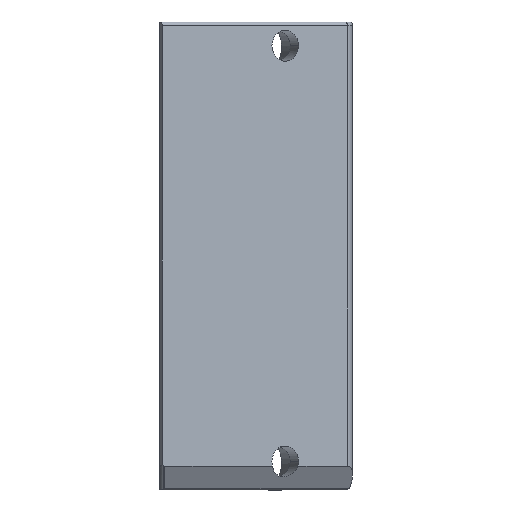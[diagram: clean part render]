
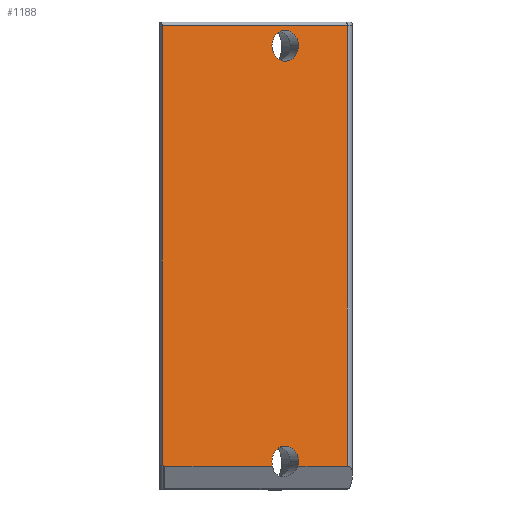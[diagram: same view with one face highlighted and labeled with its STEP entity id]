
A CAD part, front view. The second image highlights one B-rep face of the part: STEP entity #1188.
In plain terms, the highlighted planar face has unit normal (0.574, -0.819, 0).
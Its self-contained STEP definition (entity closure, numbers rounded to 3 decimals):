
#11 = CARTESIAN_POINT ( 'NONE',  ( -7.593, -6.737, 2.457 ) ) ;
#12 = VERTEX_POINT ( 'NONE', #1206 ) ;
#13 = EDGE_CURVE ( 'NONE', #473, #12, #1198, .T. ) ;
#24 = ORIENTED_EDGE ( 'NONE', *, *, #967, .T. ) ;
#43 = EDGE_CURVE ( 'NONE', #365, #227, #1193, .T. ) ;
#95 = ORIENTED_EDGE ( 'NONE', *, *, #1514, .F. ) ;
#107 = ORIENTED_EDGE ( 'NONE', *, *, #1499, .T. ) ;
#114 = CARTESIAN_POINT ( 'NONE',  ( -7.593, -6.737, 39.4 ) ) ;
#126 = AXIS2_PLACEMENT_3D ( 'NONE', #1149, #879, #197 ) ;
#130 = LINE ( 'NONE', #1041, #307 ) ;
#177 = VERTEX_POINT ( 'NONE', #700 ) ;
#185 = EDGE_LOOP ( 'NONE', ( #1756, #955, #706, #107, #920, #1085, #210, #24, #1487, #1220 ) ) ;
#197 = DIRECTION ( 'NONE',  ( 0.819, 0.574, 0. ) ) ;
#210 = ORIENTED_EDGE ( 'NONE', *, *, #1603, .F. ) ;
#212 = CARTESIAN_POINT ( 'NONE',  ( -7.57, -6.721, 2.426 ) ) ;
#227 = VERTEX_POINT ( 'NONE', #1520 ) ;
#250 = VECTOR ( 'NONE', #1608, 1000. ) ;
#252 = VECTOR ( 'NONE', #1019, 1000. ) ;
#260 = CARTESIAN_POINT ( 'NONE',  ( 3.886, 1.301, 37.7 ) ) ;
#307 = VECTOR ( 'NONE', #538, 1000. ) ;
#324 = CARTESIAN_POINT ( 'NONE',  ( 0.667, -0.953, 2.3 ) ) ;
#335 = VERTEX_POINT ( 'NONE', #593 ) ;
#365 = VERTEX_POINT ( 'NONE', #114 ) ;
#375 = DIRECTION ( 'NONE',  ( 0., 0., -1. ) ) ;
#395 = CARTESIAN_POINT ( 'NONE',  ( -7.523, -6.687, 2.375 ) ) ;
#397 = DIRECTION ( 'NONE',  ( 0., 0., 1. ) ) ;
#432 = VECTOR ( 'NONE', #375, 1000. ) ;
#447 = VERTEX_POINT ( 'NONE', #1167 ) ;
#457 = CARTESIAN_POINT ( 'NONE',  ( 1.645, -0.268, 37.7 ) ) ;
#458 = CARTESIAN_POINT ( 'NONE',  ( 3.886, 1.301, 2.7 ) ) ;
#466 = LINE ( 'NONE', #324, #252 ) ;
#473 = VERTEX_POINT ( 'NONE', #1335 ) ;
#479 = CARTESIAN_POINT ( 'NONE',  ( 8.003, 4.184, 39.4 ) ) ;
#515 = ORIENTED_EDGE ( 'NONE', *, *, #1392, .F. ) ;
#521 = CARTESIAN_POINT ( 'NONE',  ( 0.667, -0.953, 2.3 ) ) ;
#533 = CARTESIAN_POINT ( 'NONE',  ( -7.375, -6.584, 2.3 ) ) ;
#538 = DIRECTION ( 'NONE',  ( -0.819, -0.574, 0. ) ) ;
#550 = LINE ( 'NONE', #521, #250 ) ;
#585 = CARTESIAN_POINT ( 'NONE',  ( 1.645, -0.268, 2.7 ) ) ;
#593 = CARTESIAN_POINT ( 'NONE',  ( 1.699, -0.23, 2.3 ) ) ;
#620 = EDGE_CURVE ( 'NONE', #227, #473, #1143, .T. ) ;
#639 = CARTESIAN_POINT ( 'NONE',  ( -7.523, -6.687, 2.375 ) ) ;
#640 = EDGE_CURVE ( 'NONE', #1100, #335, #653, .T. ) ;
#641 = CARTESIAN_POINT ( 'NONE',  ( 3.832, 1.263, 2.3 ) ) ;
#653 =( BOUNDED_CURVE ( )  B_SPLINE_CURVE ( 3, ( #1746, #809, #1348, #1568 ),
 .UNSPECIFIED., .F., .T. ) 
 B_SPLINE_CURVE_WITH_KNOTS ( ( 4, 4 ),
 ( 3.142, 3.454 ),
 .UNSPECIFIED. ) 
 CURVE ( )  GEOMETRIC_REPRESENTATION_ITEM ( )  RATIONAL_B_SPLINE_CURVE ( ( 1., 0.992, 0.992, 1. ) ) 
 REPRESENTATION_ITEM ( '' )  );
#660 = CARTESIAN_POINT ( 'NONE',  ( 3.886, 1.301, 35.1 ) ) ;
#700 = CARTESIAN_POINT ( 'NONE',  ( 8.003, 4.184, 2.3 ) ) ;
#706 = ORIENTED_EDGE ( 'NONE', *, *, #13, .T. ) ;
#708 = EDGE_CURVE ( 'NONE', #1130, #1100, #765, .T. ) ;
#732 = CARTESIAN_POINT ( 'NONE',  ( 1.645, -0.268, 40.3 ) ) ;
#749 = PLANE ( 'NONE',  #126 ) ;
#755 = FACE_OUTER_BOUND ( 'NONE', #185, .T. ) ;
#760 = CARTESIAN_POINT ( 'NONE',  ( 3.886, 1.301, 2.7 ) ) ;
#765 =( BOUNDED_CURVE ( )  B_SPLINE_CURVE ( 3, ( #458, #1146, #865, #1137 ),
 .UNSPECIFIED., .F., .T. ) 
 B_SPLINE_CURVE_WITH_KNOTS ( ( 4, 4 ),
 ( 0., 3.142 ),
 .UNSPECIFIED. ) 
 CURVE ( )  GEOMETRIC_REPRESENTATION_ITEM ( )  RATIONAL_B_SPLINE_CURVE ( ( 1., 0.333, 0.333, 1. ) ) 
 REPRESENTATION_ITEM ( '' )  );
#809 = CARTESIAN_POINT ( 'NONE',  ( 1.645, -0.268, 2.564 ) ) ;
#811 = CARTESIAN_POINT ( 'NONE',  ( 1.645, -0.268, 35.1 ) ) ;
#842 =( BOUNDED_CURVE ( )  B_SPLINE_CURVE ( 3, ( #877, #1162, #732, #457 ),
 .UNSPECIFIED., .F., .F. ) 
 B_SPLINE_CURVE_WITH_KNOTS ( ( 4, 4 ),
 ( 0., 3.142 ),
 .UNSPECIFIED. ) 
 CURVE ( )  GEOMETRIC_REPRESENTATION_ITEM ( )  RATIONAL_B_SPLINE_CURVE ( ( 1., 0.333, 0.333, 1. ) ) 
 REPRESENTATION_ITEM ( '' )  );
#865 = CARTESIAN_POINT ( 'NONE',  ( 1.645, -0.268, 5.3 ) ) ;
#873 = FACE_BOUND ( 'NONE', #1344, .T. ) ;
#877 = CARTESIAN_POINT ( 'NONE',  ( 3.886, 1.301, 37.7 ) ) ;
#879 = DIRECTION ( 'NONE',  ( 0.574, -0.819, 0. ) ) ;
#918 = CARTESIAN_POINT ( 'NONE',  ( 3.886, 1.301, 2.564 ) ) ;
#920 = ORIENTED_EDGE ( 'NONE', *, *, #640, .F. ) ;
#933 = VECTOR ( 'NONE', #397, 1000. ) ;
#937 = VERTEX_POINT ( 'NONE', #479 ) ;
#954 = CARTESIAN_POINT ( 'NONE',  ( -7.546, -6.704, 2.398 ) ) ;
#955 = ORIENTED_EDGE ( 'NONE', *, *, #620, .T. ) ;
#967 = EDGE_CURVE ( 'NONE', #1593, #177, #550, .T. ) ;
#1007 =( BOUNDED_CURVE ( )  B_SPLINE_CURVE ( 3, ( #1211, #811, #660, #1748 ),
 .UNSPECIFIED., .F., .F. ) 
 B_SPLINE_CURVE_WITH_KNOTS ( ( 4, 4 ),
 ( 3.142, 6.283 ),
 .UNSPECIFIED. ) 
 CURVE ( )  GEOMETRIC_REPRESENTATION_ITEM ( )  RATIONAL_B_SPLINE_CURVE ( ( 1., 0.333, 0.333, 1. ) ) 
 REPRESENTATION_ITEM ( '' )  );
#1016 =( BOUNDED_CURVE ( )  B_SPLINE_CURVE ( 3, ( #1604, #1296, #918, #760 ),
 .UNSPECIFIED., .F., .F. ) 
 B_SPLINE_CURVE_WITH_KNOTS ( ( 4, 4 ),
 ( 5.97, 6.283 ),
 .UNSPECIFIED. ) 
 CURVE ( )  GEOMETRIC_REPRESENTATION_ITEM ( )  RATIONAL_B_SPLINE_CURVE ( ( 1., 0.992, 0.992, 1. ) ) 
 REPRESENTATION_ITEM ( '' )  );
#1019 = DIRECTION ( 'NONE',  ( 0.819, 0.574, 0. ) ) ;
#1028 = VERTEX_POINT ( 'NONE', #260 ) ;
#1041 = CARTESIAN_POINT ( 'NONE',  ( 0.667, -0.953, 39.4 ) ) ;
#1085 = ORIENTED_EDGE ( 'NONE', *, *, #708, .F. ) ;
#1100 = VERTEX_POINT ( 'NONE', #585 ) ;
#1130 = VERTEX_POINT ( 'NONE', #1666 ) ;
#1137 = CARTESIAN_POINT ( 'NONE',  ( 1.645, -0.268, 2.7 ) ) ;
#1143 =( BOUNDED_CURVE ( )  B_SPLINE_CURVE ( 3, ( #11, #212, #954, #395 ),
 .UNSPECIFIED., .F., .F. ) 
 B_SPLINE_CURVE_WITH_KNOTS ( ( 4, 4 ),
 ( 2.189, 2.427 ),
 .UNSPECIFIED. ) 
 CURVE ( )  GEOMETRIC_REPRESENTATION_ITEM ( )  RATIONAL_B_SPLINE_CURVE ( ( 1., 0.995, 0.995, 1. ) ) 
 REPRESENTATION_ITEM ( '' )  );
#1146 = CARTESIAN_POINT ( 'NONE',  ( 3.886, 1.301, 5.3 ) ) ;
#1149 = CARTESIAN_POINT ( 'NONE',  ( 0.667, -0.953, 0. ) ) ;
#1162 = CARTESIAN_POINT ( 'NONE',  ( 3.886, 1.301, 40.3 ) ) ;
#1167 = CARTESIAN_POINT ( 'NONE',  ( 1.645, -0.268, 37.7 ) ) ;
#1188 = ADVANCED_FACE ( 'NONE', ( #873, #755 ), #749, .T. ) ;
#1193 = LINE ( 'NONE', #1736, #432 ) ;
#1198 =( BOUNDED_CURVE ( )  B_SPLINE_CURVE ( 3, ( #639, #1571, #1429, #533 ),
 .UNSPECIFIED., .F., .T. ) 
 B_SPLINE_CURVE_WITH_KNOTS ( ( 4, 4 ),
 ( 2.427, 2.941 ),
 .UNSPECIFIED. ) 
 CURVE ( )  GEOMETRIC_REPRESENTATION_ITEM ( )  RATIONAL_B_SPLINE_CURVE ( ( 1., 0.978, 0.978, 1. ) ) 
 REPRESENTATION_ITEM ( '' )  );
#1206 = CARTESIAN_POINT ( 'NONE',  ( -7.375, -6.584, 2.3 ) ) ;
#1211 = CARTESIAN_POINT ( 'NONE',  ( 1.645, -0.268, 37.7 ) ) ;
#1220 = ORIENTED_EDGE ( 'NONE', *, *, #1406, .T. ) ;
#1296 = CARTESIAN_POINT ( 'NONE',  ( 3.868, 1.288, 2.429 ) ) ;
#1300 = EDGE_CURVE ( 'NONE', #177, #937, #1597, .T. ) ;
#1335 = CARTESIAN_POINT ( 'NONE',  ( -7.523, -6.687, 2.375 ) ) ;
#1344 = EDGE_LOOP ( 'NONE', ( #515, #95 ) ) ;
#1348 = CARTESIAN_POINT ( 'NONE',  ( 1.663, -0.255, 2.429 ) ) ;
#1392 = EDGE_CURVE ( 'NONE', #447, #1028, #1007, .T. ) ;
#1406 = EDGE_CURVE ( 'NONE', #937, #365, #130, .T. ) ;
#1429 = CARTESIAN_POINT ( 'NONE',  ( -7.42, -6.616, 2.3 ) ) ;
#1487 = ORIENTED_EDGE ( 'NONE', *, *, #1300, .T. ) ;
#1499 = EDGE_CURVE ( 'NONE', #12, #335, #466, .T. ) ;
#1514 = EDGE_CURVE ( 'NONE', #1028, #447, #842, .T. ) ;
#1520 = CARTESIAN_POINT ( 'NONE',  ( -7.593, -6.737, 2.457 ) ) ;
#1568 = CARTESIAN_POINT ( 'NONE',  ( 1.699, -0.23, 2.3 ) ) ;
#1571 = CARTESIAN_POINT ( 'NONE',  ( -7.471, -6.651, 2.326 ) ) ;
#1593 = VERTEX_POINT ( 'NONE', #641 ) ;
#1597 = LINE ( 'NONE', #1720, #933 ) ;
#1603 = EDGE_CURVE ( 'NONE', #1593, #1130, #1016, .T. ) ;
#1604 = CARTESIAN_POINT ( 'NONE',  ( 3.832, 1.263, 2.3 ) ) ;
#1608 = DIRECTION ( 'NONE',  ( 0.819, 0.574, 0. ) ) ;
#1666 = CARTESIAN_POINT ( 'NONE',  ( 3.886, 1.301, 2.7 ) ) ;
#1720 = CARTESIAN_POINT ( 'NONE',  ( 8.003, 4.184, 0. ) ) ;
#1736 = CARTESIAN_POINT ( 'NONE',  ( -7.593, -6.737, 39.7 ) ) ;
#1746 = CARTESIAN_POINT ( 'NONE',  ( 1.645, -0.268, 2.7 ) ) ;
#1748 = CARTESIAN_POINT ( 'NONE',  ( 3.886, 1.301, 37.7 ) ) ;
#1756 = ORIENTED_EDGE ( 'NONE', *, *, #43, .T. ) ;
